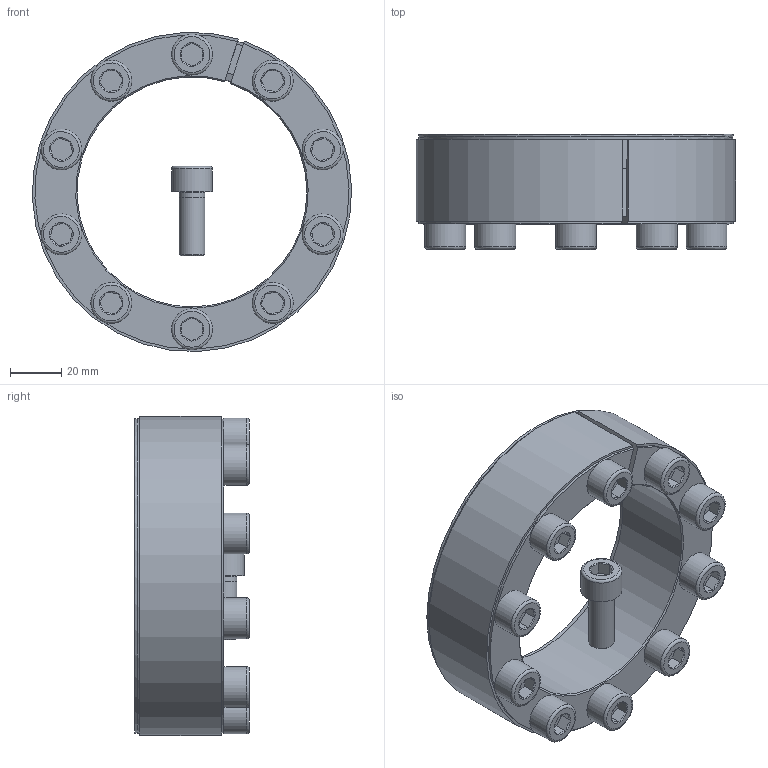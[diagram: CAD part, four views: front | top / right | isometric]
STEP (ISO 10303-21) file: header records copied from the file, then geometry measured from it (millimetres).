
FILE_DESCRIPTION( ( 'Unknown' ), '1' );
FILE_NAME( 'C:/Dokumente und Einstellungen/Sven/Desktop/homepage/cad - homepage/KBS52/KBS 52 - 90 x 125.stp', 'Unknown', ( 'Unknown' ), ( 'Unknown' ), 'XStep 1.0', 'Unknown', ' ' );
FILE_SCHEMA( ( 'automotive_design' ) );
Length unit declared in the file: millimetre
Products named in the file (3): Assem1; KBS 52 - 90 x 125; ISO EN DIN 4762 M10x25
Bounding box: 124.93 x 45 x 124.88 mm (x, y, z)
Volume: 395014.8 mm3; surface area: 110409.5 mm2
Topology: 13 solids, 13 shells, 335 faces, 657 edges, 390 vertices
Faces by surface type: plane 158, cone 83, cylinder 72, torus 22
Full cylindrical faces by diameter (mm): 9 x11, 10 x42, 16 x11, 123.175 x2
Entity records: 1797 total; most frequent: CARTESIAN_POINT 295, DIRECTION 279, ORIENTED_EDGE 204, AXIS2_PLACEMENT_3D 118, EDGE_CURVE 102, EDGE_LOOP 100, VERTEX_POINT 74, FACE_OUTER_BOUND 72
